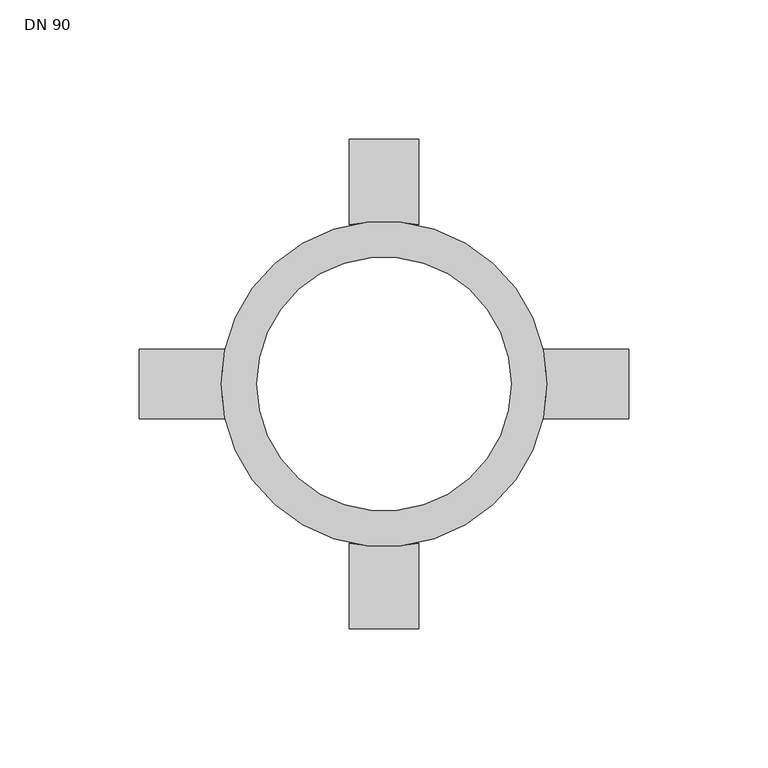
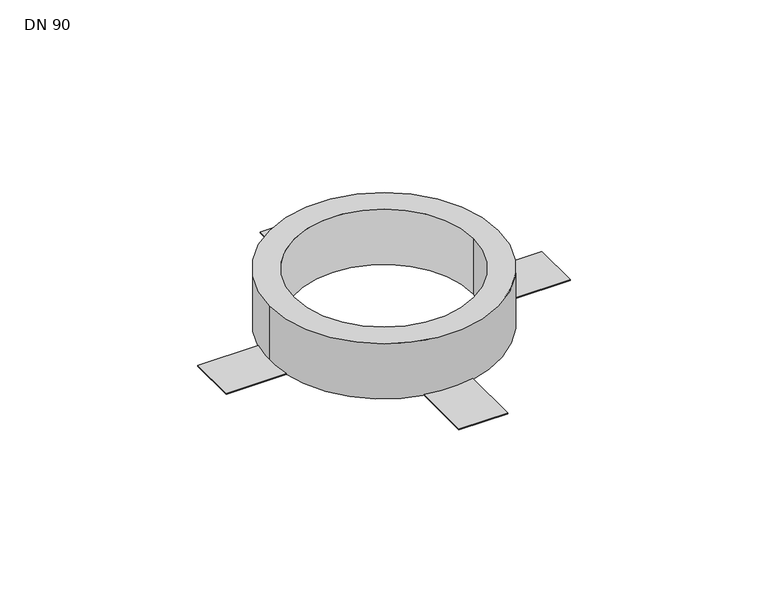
"""IFC4 building model written with IfcOpenShell, lengths in millimetres: proxy geometry, Wavin Brandmanschette für Decken : DN 90."""

from ifc_helpers import new_model, si_unit, point, origin, origin_with_axes, origin_2d, place, context, project, spatial, polyline, circle_curve, trimmed, segment, composite_curve, outline, extrude, source, transform, mapped, element, save


def dn_90_ac1121be(model_context):
    return source(origin(), model_context, "Body", "SweptSolid", [
        extrude(outline(composite_curve([segment(polyline([(88.0, 12.5), (88.0, -12.5), (57.1489282, -12.5)]), True, "CONTINUOUS"), segment(trimmed(circle_curve(origin_2d(), 58.5), [point((57.1489282, -12.5))], [point((57.1489282, 12.5))], True, "CARTESIAN"), True, "CONTINUOUS"), segment(polyline([(57.1489282, 12.5), (88.0, 12.5)]), True, "CONTINUOUS")], self_intersect=False)), origin_with_axes(), (0.0, 0.0, 1.0), 0.6),
        extrude(outline(composite_curve([segment(polyline([(-12.5, 88.0), (12.5, 88.0), (12.5, 57.1489282)]), True, "CONTINUOUS"), segment(trimmed(circle_curve(origin_2d(), 58.5), [point((12.5, 57.1489282))], [point((-12.5, 57.1489282))], True, "CARTESIAN"), True, "CONTINUOUS"), segment(polyline([(-12.5, 57.1489282), (-12.5, 88.0)]), True, "CONTINUOUS")], self_intersect=False)), origin_with_axes(), (0.0, 0.0, 1.0), 0.6),
        extrude(outline(composite_curve([segment(polyline([(-88.0, -12.5), (-88.0, 12.5), (-57.1489282, 12.5)]), True, "CONTINUOUS"), segment(trimmed(circle_curve(origin_2d(), 58.5), [point((-57.1489282, 12.5))], [point((-57.1489282, -12.5))], True, "CARTESIAN"), True, "CONTINUOUS"), segment(polyline([(-57.1489282, -12.5), (-88.0, -12.5)]), True, "CONTINUOUS")], self_intersect=False)), origin_with_axes(), (0.0, 0.0, 1.0), 0.6),
        extrude(outline(composite_curve([segment(polyline([(12.5, -88.0), (-12.5, -88.0), (-12.5, -57.1489282)]), True, "CONTINUOUS"), segment(trimmed(circle_curve(origin_2d(), 58.5), [point((-12.5, -57.1489282))], [point((12.5, -57.1489282))], True, "CARTESIAN"), True, "CONTINUOUS"), segment(polyline([(12.5, -57.1489282), (12.5, -88.0)]), True, "CONTINUOUS")], self_intersect=False)), origin_with_axes(), (0.0, 0.0, 1.0), 0.6),
        extrude(outline(composite_curve([segment(trimmed(circle_curve(origin_2d(), 58.5), [point((-58.5, 0.0))], [point((58.5, 0.0))], False, "CARTESIAN"), True, "CONTINUOUS"), segment(trimmed(circle_curve(origin_2d(), 58.5), [point((58.5, 0.0))], [point((-58.5, 0.0))], False, "CARTESIAN"), True, "CONTINUOUS")], self_intersect=False), holes=[composite_curve([segment(trimmed(circle_curve(origin_2d(), 45.7), [point((-45.7, 0.0))], [point((45.7, 0.0))], True, "CARTESIAN"), True, "CONTINUOUS"), segment(trimmed(circle_curve(origin_2d(), 45.7), [point((45.7, 0.0))], [point((-45.7, 0.0))], True, "CARTESIAN"), True, "CONTINUOUS")], self_intersect=False)]), origin_with_axes(), (0.0, 0.0, 1.0), 30.0),
    ])


if __name__ == "__main__":
    model = new_model("IFC4")
    model_context = context("Model", 3, world=origin())
    ifc_project = project(units=[si_unit("LENGTHUNIT", "METRE", prefix="MILLI")], contexts=[model_context])
    site = spatial("IfcSite", under=ifc_project)
    building = spatial("IfcBuilding", under=site)
    placement = place(None, origin())
    dn_90_shape = dn_90_ac1121be(model_context)
    element("IfcBuildingElementProxy", 1, Name="Wavin Brandmanschette für Decken : DN 90", ObjectType="Wavin Brandmanschette für Decken : DN 90", at=placement, inside=building, context=model_context, shape_type="MappedRepresentation", body=[
        mapped(dn_90_shape, transform((0.0, 0.0, 0.0), x_axis=(1.0, 0.0, 0.0), y_axis=(0.0, 1.0, 0.0), z_axis=(0.0, 0.0, 1.0))),
    ])
    save(model, "model.ifc")
